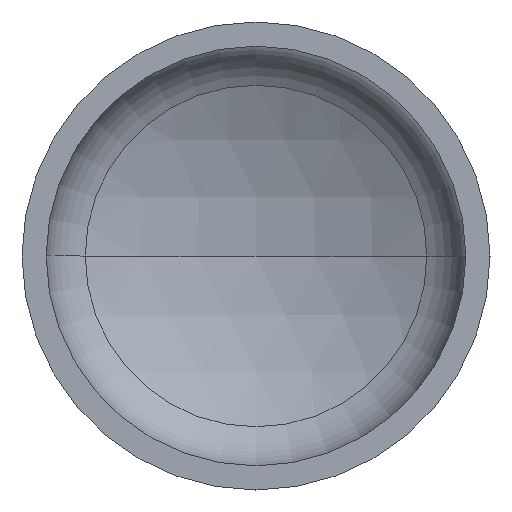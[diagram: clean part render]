
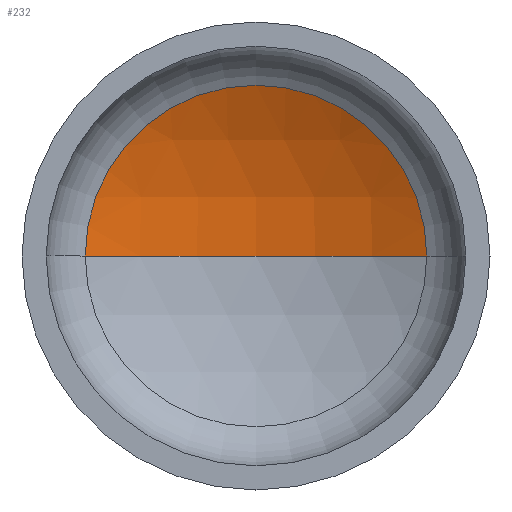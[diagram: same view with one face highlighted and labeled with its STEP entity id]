
A CAD part, front view. The second image highlights one B-rep face of the part: STEP entity #232.
In plain terms, the highlighted spherical face has radius 480 mm.
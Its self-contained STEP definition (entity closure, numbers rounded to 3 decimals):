
#10 = DIRECTION ( 'NONE',  ( -1., 0., 0. ) ) ;
#18 = AXIS2_PLACEMENT_3D ( 'NONE', #276, #279, #40 ) ;
#37 = ORIENTED_EDGE ( 'NONE', *, *, #359, .T. ) ;
#40 = DIRECTION ( 'NONE',  ( 1., 0., 0. ) ) ;
#44 = AXIS2_PLACEMENT_3D ( 'NONE', #402, #337, #137 ) ;
#51 = ORIENTED_EDGE ( 'NONE', *, *, #365, .F. ) ;
#53 = VERTEX_POINT ( 'NONE', #298 ) ;
#58 = CIRCLE ( 'NONE', #18, 218.969 ) ;
#70 = AXIS2_PLACEMENT_3D ( 'NONE', #360, #71, #267 ) ;
#71 = DIRECTION ( 'NONE',  ( 0., 0., -1. ) ) ;
#88 = AXIS2_PLACEMENT_3D ( 'NONE', #227, #289, #10 ) ;
#90 = CIRCLE ( 'NONE', #70, 480. ) ;
#109 = SPHERICAL_SURFACE ( 'NONE', #88, 480. ) ;
#130 = VERTEX_POINT ( 'NONE', #327 ) ;
#137 = DIRECTION ( 'NONE',  ( 1., 0., 0. ) ) ;
#138 = VERTEX_POINT ( 'NONE', #343 ) ;
#180 = EDGE_LOOP ( 'NONE', ( #51, #37, #266 ) ) ;
#227 = CARTESIAN_POINT ( 'NONE',  ( 0., -245.275, 0. ) ) ;
#232 = ADVANCED_FACE ( 'NONE', ( #352 ), #109, .F. ) ;
#266 = ORIENTED_EDGE ( 'NONE', *, *, #375, .T. ) ;
#267 = DIRECTION ( 'NONE',  ( -1., 0., 0. ) ) ;
#276 = CARTESIAN_POINT ( 'NONE',  ( 0., 181.869, 0. ) ) ;
#279 = DIRECTION ( 'NONE',  ( 0., -1., 0. ) ) ;
#289 = DIRECTION ( 'NONE',  ( 0., 0., -1. ) ) ;
#298 = CARTESIAN_POINT ( 'NONE',  ( -218.969, 181.869, 0. ) ) ;
#325 = CIRCLE ( 'NONE', #44, 480. ) ;
#327 = CARTESIAN_POINT ( 'NONE',  ( 218.969, 181.869, 0. ) ) ;
#337 = DIRECTION ( 'NONE',  ( 0., 0., 1. ) ) ;
#343 = CARTESIAN_POINT ( 'NONE',  ( 0., 234.725, 0. ) ) ;
#352 = FACE_OUTER_BOUND ( 'NONE', #180, .T. ) ;
#359 = EDGE_CURVE ( 'NONE', #138, #130, #90, .T. ) ;
#360 = CARTESIAN_POINT ( 'NONE',  ( 0., -245.275, 0. ) ) ;
#365 = EDGE_CURVE ( 'NONE', #138, #53, #325, .T. ) ;
#375 = EDGE_CURVE ( 'NONE', #130, #53, #58, .T. ) ;
#402 = CARTESIAN_POINT ( 'NONE',  ( 0., -245.275, 0. ) ) ;
